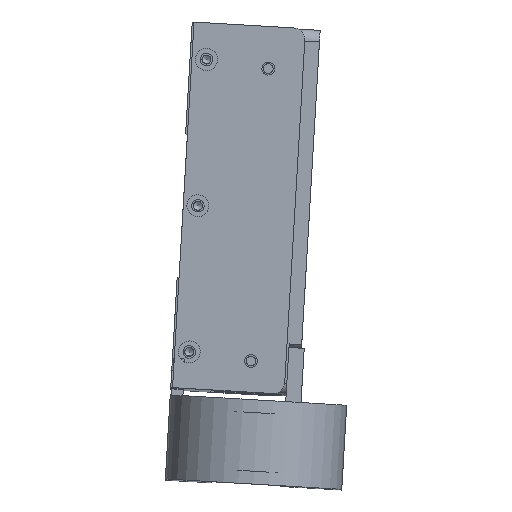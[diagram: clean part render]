
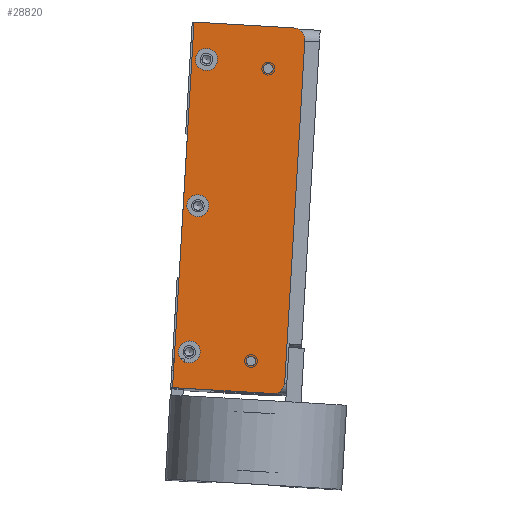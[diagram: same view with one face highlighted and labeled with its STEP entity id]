
A CAD part, top view. The second image highlights one B-rep face of the part: STEP entity #28820.
In plain terms, the highlighted planar face has unit normal (0, 0, 1) as drawn and (0, -1, 0) by its records, which use the part's own axes.
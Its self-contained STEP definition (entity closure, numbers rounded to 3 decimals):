
#831=PLANE($,#31273);
#1908=FACE_BOUND($,#5095,.T.);
#1909=FACE_BOUND($,#5096,.T.);
#1910=FACE_BOUND($,#5097,.T.);
#1911=FACE_BOUND($,#5098,.T.);
#1912=FACE_BOUND($,#5099,.T.);
#1913=FACE_BOUND($,#5100,.T.);
#5095=EDGE_LOOP($,(#22896));
#5096=EDGE_LOOP($,(#22897));
#5097=EDGE_LOOP($,(#22898));
#5098=EDGE_LOOP($,(#22899));
#5099=EDGE_LOOP($,(#22900));
#5100=EDGE_LOOP($,(#22901,#22902,#22903,#22904,#22905,#22906));
#7240=LINE($,#45562,#9810);
#7243=LINE($,#45578,#9813);
#7244=LINE($,#45580,#9814);
#7245=LINE($,#45582,#9815);
#9810=VECTOR($,#36577,93.65);
#9813=VECTOR($,#36592,27.325);
#9814=VECTOR($,#36593,100.);
#9815=VECTOR($,#36594,27.325);
#12308=CIRCLE($,#31270,3.175);
#12310=CIRCLE($,#31274,3.);
#12311=CIRCLE($,#31275,3.);
#12312=CIRCLE($,#31276,3.);
#12313=CIRCLE($,#31277,1.321);
#12314=CIRCLE($,#31278,1.321);
#12315=CIRCLE($,#31279,3.175);
#13979=VERTEX_POINT($,#45552);
#13980=VERTEX_POINT($,#45553);
#13983=VERTEX_POINT($,#45561);
#13985=VERTEX_POINT($,#45567);
#13986=VERTEX_POINT($,#45569);
#13987=VERTEX_POINT($,#45571);
#13988=VERTEX_POINT($,#45573);
#13989=VERTEX_POINT($,#45575);
#13990=VERTEX_POINT($,#45577);
#13991=VERTEX_POINT($,#45579);
#13992=VERTEX_POINT($,#45581);
#17257=EDGE_CURVE($,#13979,#13980,#12308,.T.);
#17261=EDGE_CURVE($,#13980,#13983,#7240,.T.);
#17264=EDGE_CURVE($,#13985,#13985,#12310,.T.);
#17265=EDGE_CURVE($,#13986,#13986,#12311,.T.);
#17266=EDGE_CURVE($,#13987,#13987,#12312,.T.);
#17267=EDGE_CURVE($,#13988,#13988,#12313,.T.);
#17268=EDGE_CURVE($,#13989,#13989,#12314,.T.);
#17269=EDGE_CURVE($,#13979,#13990,#7243,.T.);
#17270=EDGE_CURVE($,#13990,#13991,#7244,.T.);
#17271=EDGE_CURVE($,#13991,#13992,#7245,.T.);
#17272=EDGE_CURVE($,#13983,#13992,#12315,.T.);
#22896=ORIENTED_EDGE($,*,*,#17264,.T.);
#22897=ORIENTED_EDGE($,*,*,#17265,.T.);
#22898=ORIENTED_EDGE($,*,*,#17266,.T.);
#22899=ORIENTED_EDGE($,*,*,#17267,.T.);
#22900=ORIENTED_EDGE($,*,*,#17268,.T.);
#22901=ORIENTED_EDGE($,*,*,#17257,.F.);
#22902=ORIENTED_EDGE($,*,*,#17269,.T.);
#22903=ORIENTED_EDGE($,*,*,#17270,.T.);
#22904=ORIENTED_EDGE($,*,*,#17271,.T.);
#22905=ORIENTED_EDGE($,*,*,#17272,.F.);
#22906=ORIENTED_EDGE($,*,*,#17261,.F.);
#28820=ADVANCED_FACE($,(#1908,#1909,#1910,#1911,#1912,#1913),#831,.T.);
#31270=AXIS2_PLACEMENT_3D($,#45554,#36569,#36570);
#31273=AXIS2_PLACEMENT_3D($,#45566,#36580,#36581);
#31274=AXIS2_PLACEMENT_3D($,#45568,#36582,#36583);
#31275=AXIS2_PLACEMENT_3D($,#45570,#36584,#36585);
#31276=AXIS2_PLACEMENT_3D($,#45572,#36586,#36587);
#31277=AXIS2_PLACEMENT_3D($,#45574,#36588,#36589);
#31278=AXIS2_PLACEMENT_3D($,#45576,#36590,#36591);
#31279=AXIS2_PLACEMENT_3D($,#45583,#36595,#36596);
#36569=DIRECTION('center_axis',(0.,1.,0.));
#36570=DIRECTION('ref_axis',(0.707,0.,0.707));
#36577=DIRECTION($,(0.,0.,-1.));
#36580=DIRECTION('center_axis',(0.,-1.,0.));
#36581=DIRECTION('ref_axis',(0.,0.,-1.));
#36582=DIRECTION('center_axis',(0.,1.,0.));
#36583=DIRECTION('ref_axis',(1.,0.,0.));
#36584=DIRECTION('center_axis',(0.,1.,0.));
#36585=DIRECTION('ref_axis',(1.,0.,0.));
#36586=DIRECTION('center_axis',(0.,1.,0.));
#36587=DIRECTION('ref_axis',(1.,0.,0.));
#36588=DIRECTION('center_axis',(0.,1.,0.));
#36589=DIRECTION('ref_axis',(1.,0.,0.));
#36590=DIRECTION('center_axis',(0.,1.,0.));
#36591=DIRECTION('ref_axis',(1.,0.,0.));
#36592=DIRECTION($,(-1.,0.,0.));
#36593=DIRECTION($,(0.,0.,-1.));
#36594=DIRECTION($,(1.,0.,0.));
#36595=DIRECTION('center_axis',(0.,1.,0.));
#36596=DIRECTION('ref_axis',(0.707,0.,-0.707));
#45552=CARTESIAN_POINT('',(12.075,-2.5,50.));
#45553=CARTESIAN_POINT('',(15.25,-2.5,46.825));
#45554=CARTESIAN_POINT('Origin',(12.075,-2.5,46.825));
#45561=CARTESIAN_POINT('',(15.25,-2.5,-46.825));
#45562=CARTESIAN_POINT($,(15.25,-2.5,0.));
#45566=CARTESIAN_POINT('Origin',(15.25,-2.5,0.));
#45567=CARTESIAN_POINT('',(-8.25,-2.5,0.));
#45568=CARTESIAN_POINT('Origin',(-11.25,-2.5,0.));
#45569=CARTESIAN_POINT('',(-8.25,-2.5,40.));
#45570=CARTESIAN_POINT('Origin',(-11.25,-2.5,40.));
#45571=CARTESIAN_POINT('',(-8.25,-2.5,-40.));
#45572=CARTESIAN_POINT('Origin',(-11.25,-2.5,-40.));
#45573=CARTESIAN_POINT('',(7.071,-2.5,38.5));
#45574=CARTESIAN_POINT('Origin',(5.75,-2.5,38.5));
#45575=CARTESIAN_POINT('',(7.037,-2.5,-41.5));
#45576=CARTESIAN_POINT('Origin',(5.716,-2.5,-41.5));
#45577=CARTESIAN_POINT('',(-15.25,-2.5,50.));
#45578=CARTESIAN_POINT($,(15.25,-2.5,50.));
#45579=CARTESIAN_POINT('',(-15.25,-2.5,-50.));
#45580=CARTESIAN_POINT($,(-15.25,-2.5,0.));
#45581=CARTESIAN_POINT('',(12.075,-2.5,-50.));
#45582=CARTESIAN_POINT($,(15.25,-2.5,-50.));
#45583=CARTESIAN_POINT('Origin',(12.075,-2.5,-46.825));
